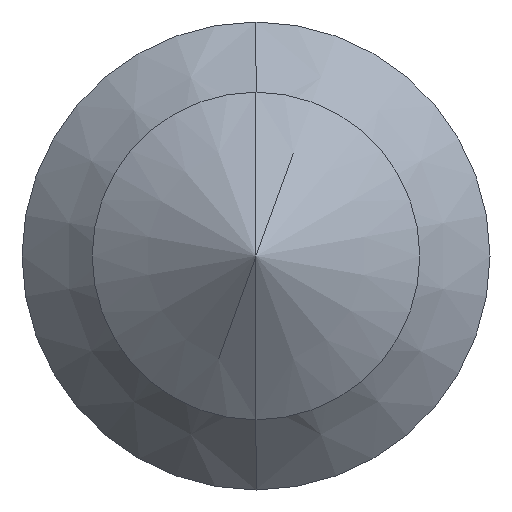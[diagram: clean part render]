
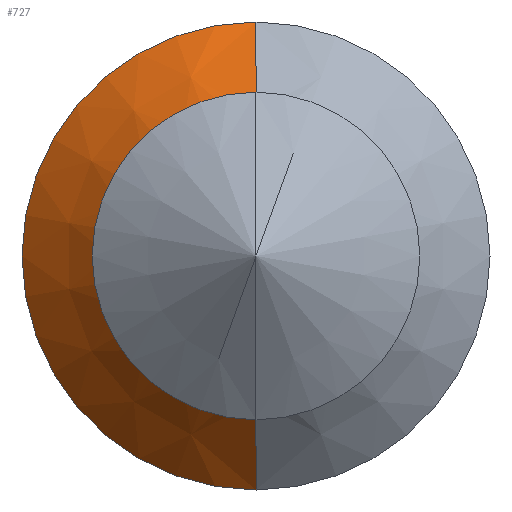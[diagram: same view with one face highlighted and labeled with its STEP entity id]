
A CAD part, left-side view. The second image highlights one B-rep face of the part: STEP entity #727.
In plain terms, the highlighted conical face has half-angle 45 degrees and reference radius 2 mm.
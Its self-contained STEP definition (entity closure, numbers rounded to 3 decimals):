
#37 = CARTESIAN_POINT ( 'NONE',  ( -1.595, 0., 1.25 ) ) ;
#91 = AXIS2_PLACEMENT_3D ( 'NONE', #3368, #1371, #4045 ) ;
#167 = DIRECTION ( 'NONE',  ( 0.707, 0., 0.707 ) ) ;
#255 = VECTOR ( 'NONE', #167, 1000. ) ;
#329 = EDGE_CURVE ( 'NONE', #3736, #626, #459, .T. ) ;
#459 = CIRCLE ( 'NONE', #2595, 1.25 ) ;
#581 = LINE ( 'NONE', #1162, #1340 ) ;
#626 = VERTEX_POINT ( 'NONE', #2332 ) ;
#727 = ADVANCED_FACE ( 'NONE', ( #1403 ), #3855, .T. ) ;
#894 = VERTEX_POINT ( 'NONE', #1048 ) ;
#1048 = CARTESIAN_POINT ( 'NONE',  ( -0.845, 0., 2. ) ) ;
#1162 = CARTESIAN_POINT ( 'NONE',  ( -0.845, 0., -2. ) ) ;
#1200 = CARTESIAN_POINT ( 'NONE',  ( -1.595, 0., 0. ) ) ;
#1227 = ORIENTED_EDGE ( 'NONE', *, *, #3215, .T. ) ;
#1340 = VECTOR ( 'NONE', #3499, 1000. ) ;
#1349 = CARTESIAN_POINT ( 'NONE',  ( -0.845, 0., 0. ) ) ;
#1371 = DIRECTION ( 'NONE',  ( 1., 0., 0. ) ) ;
#1403 = FACE_OUTER_BOUND ( 'NONE', #4083, .T. ) ;
#1514 = DIRECTION ( 'NONE',  ( 0., 0., 1. ) ) ;
#1663 = DIRECTION ( 'NONE',  ( 0., 0., 1. ) ) ;
#1997 = ORIENTED_EDGE ( 'NONE', *, *, #329, .F. ) ;
#2046 = CARTESIAN_POINT ( 'NONE',  ( -0.845, 0., 2. ) ) ;
#2107 = CIRCLE ( 'NONE', #2959, 2. ) ;
#2257 = EDGE_CURVE ( 'NONE', #3736, #894, #2845, .T. ) ;
#2332 = CARTESIAN_POINT ( 'NONE',  ( -1.595, 0., -1.25 ) ) ;
#2595 = AXIS2_PLACEMENT_3D ( 'NONE', #1200, #3539, #1514 ) ;
#2765 = CARTESIAN_POINT ( 'NONE',  ( -0.845, 0., -2. ) ) ;
#2845 = LINE ( 'NONE', #2046, #255 ) ;
#2896 = EDGE_CURVE ( 'NONE', #626, #4064, #581, .T. ) ;
#2959 = AXIS2_PLACEMENT_3D ( 'NONE', #1349, #3696, #1663 ) ;
#3215 = EDGE_CURVE ( 'NONE', #894, #4064, #2107, .T. ) ;
#3368 = CARTESIAN_POINT ( 'NONE',  ( -0.845, 0., 0. ) ) ;
#3499 = DIRECTION ( 'NONE',  ( 0.707, 0., -0.707 ) ) ;
#3539 = DIRECTION ( 'NONE',  ( -1., 0., 0. ) ) ;
#3696 = DIRECTION ( 'NONE',  ( -1., 0., 0. ) ) ;
#3736 = VERTEX_POINT ( 'NONE', #37 ) ;
#3855 = CONICAL_SURFACE ( 'NONE', #91, 2., 0.785 ) ;
#4045 = DIRECTION ( 'NONE',  ( 0., 0., -1. ) ) ;
#4064 = VERTEX_POINT ( 'NONE', #2765 ) ;
#4083 = EDGE_LOOP ( 'NONE', ( #1997, #4092, #1227, #4096 ) ) ;
#4092 = ORIENTED_EDGE ( 'NONE', *, *, #2257, .T. ) ;
#4096 = ORIENTED_EDGE ( 'NONE', *, *, #2896, .F. ) ;
